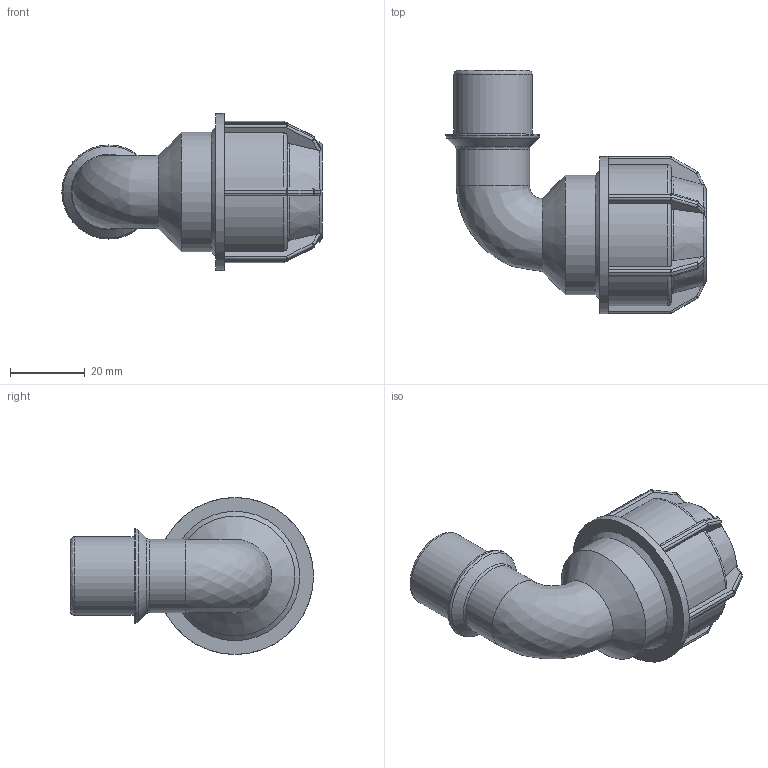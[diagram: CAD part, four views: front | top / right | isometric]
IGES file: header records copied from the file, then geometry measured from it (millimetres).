
Global section: file name: 148500020005.ipt; native system: Autodesk Inventor 2015; preprocessor: unknown; author: KIM; date: 20180409.131241; units: millimetre
Bounding box: 69.57 x 65 x 42 mm (x, y, z)
Volume: 31305.2 mm3; surface area: 16018.1 mm2
Topology: 1 solids, 1 shells, 213 faces, 509 edges, 298 vertices
Faces by surface type: plane 98, cylinder 59, sphere 24, revolution 23, cone 9
Full cylindrical faces by diameter (mm): 19.593 x1, 20.955 x1, 25.146 x1, 32 x1, 42 x1
